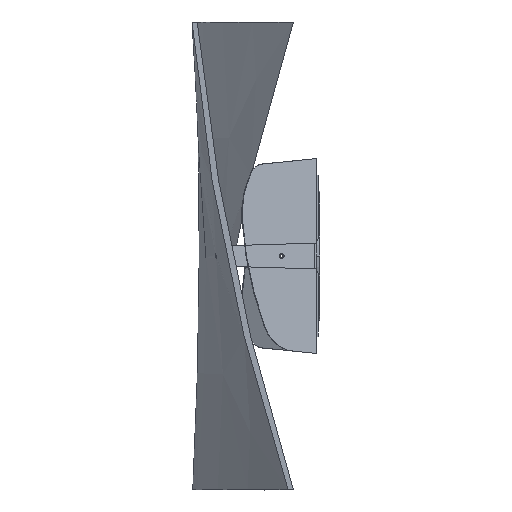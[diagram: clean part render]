
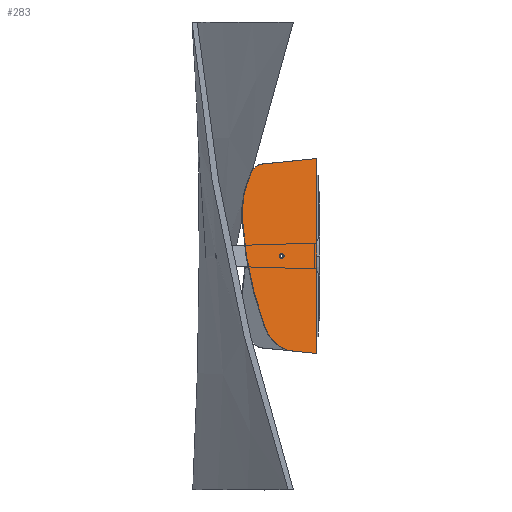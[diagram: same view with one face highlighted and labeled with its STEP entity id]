
A CAD part, left-side view. The second image highlights one B-rep face of the part: STEP entity #283.
In plain terms, the highlighted planar face has unit normal (-0.866, -0.5, 0).
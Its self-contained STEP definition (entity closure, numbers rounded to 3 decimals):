
#143 = CARTESIAN_POINT ( 'NONE',  ( -306.909, 72.095, 108.161 ) ) ;
#249 = FACE_OUTER_BOUND ( 'NONE', #2225, .T. ) ;
#283 = ADVANCED_FACE ( 'NONE', ( #8375, #249 ), #4294, .T. ) ;
#421 = DIRECTION ( 'NONE',  ( 0.498, -0.863, -0.087 ) ) ;
#422 = DIRECTION ( 'NONE',  ( -0.5, 0.866, 0. ) ) ;
#429 = VECTOR ( 'NONE', #421, 1000. ) ;
#527 = EDGE_CURVE ( 'NONE', #10351, #10638, #3635, .T. ) ;
#902 = EDGE_CURVE ( 'NONE', #10638, #10351, #5635, .T. ) ;
#1045 = DIRECTION ( 'NONE',  ( -0.5, 0.866, 0. ) ) ;
#1062 = DIRECTION ( 'NONE',  ( 0.5, -0.866, 0. ) ) ;
#1217 = AXIS2_PLACEMENT_3D ( 'NONE', #10074, #5924, #1062 ) ;
#1272 = DIRECTION ( 'NONE',  ( 0.5, -0.866, 0. ) ) ;
#1303 = CARTESIAN_POINT ( 'NONE',  ( -182.184, -143.935, 89.967 ) ) ;
#1390 = CIRCLE ( 'NONE', #11721, 30.006 ) ;
#1403 = CARTESIAN_POINT ( 'NONE',  ( -293.428, 48.745, 43.452 ) ) ;
#1805 = VERTEX_POINT ( 'NONE', #143 ) ;
#1895 = CARTESIAN_POINT ( 'NONE',  ( -294.303, 50.261, 43.452 ) ) ;
#1958 = VERTEX_POINT ( 'NONE', #6063 ) ;
#1970 = CARTESIAN_POINT ( 'NONE',  ( -311.043, 79.256, 71.492 ) ) ;
#2225 = EDGE_LOOP ( 'NONE', ( #10128, #11889, #11589, #5495, #9035, #6817, #6627 ) ) ;
#2517 = DIRECTION ( 'NONE',  ( -0.866, -0.5, 0. ) ) ;
#2611 = DIRECTION ( 'NONE',  ( -0.866, -0.5, 0. ) ) ;
#2677 = EDGE_LOOP ( 'NONE', ( #9446, #10435 ) ) ;
#2922 = CARTESIAN_POINT ( 'NONE',  ( -277.928, 21.898, -31.548 ) ) ;
#3595 = EDGE_CURVE ( 'NONE', #12759, #1958, #1390, .T. ) ;
#3635 = CIRCLE ( 'NONE', #8059, 1.75 ) ;
#4199 = DIRECTION ( 'NONE',  ( 0., 0., 1. ) ) ;
#4205 = VECTOR ( 'NONE', #11399, 1000. ) ;
#4294 = PLANE ( 'NONE',  #8095 ) ;
#4667 = CARTESIAN_POINT ( 'NONE',  ( -277.928, 21.898, 118.453 ) ) ;
#5131 = DIRECTION ( 'NONE',  ( 0.5, -0.866, 0. ) ) ;
#5341 = DIRECTION ( 'NONE',  ( -0.866, -0.5, 0. ) ) ;
#5438 = LINE ( 'NONE', #12332, #429 ) ;
#5495 = ORIENTED_EDGE ( 'NONE', *, *, #7318, .T. ) ;
#5504 = LINE ( 'NONE', #7421, #4205 ) ;
#5635 = CIRCLE ( 'NONE', #12840, 1.75 ) ;
#5793 = EDGE_CURVE ( 'NONE', #1805, #10306, #9481, .T. ) ;
#5924 = DIRECTION ( 'NONE',  ( -0.866, -0.5, 0. ) ) ;
#5988 = CIRCLE ( 'NONE', #12125, 12. ) ;
#6042 = CARTESIAN_POINT ( 'NONE',  ( -293.428, 48.745, 43.452 ) ) ;
#6055 = DIRECTION ( 'NONE',  ( -0.866, -0.5, 0. ) ) ;
#6063 = CARTESIAN_POINT ( 'NONE',  ( -288.485, 40.184, -29.701 ) ) ;
#6278 = CIRCLE ( 'NONE', #1217, 258.38 ) ;
#6363 = AXIS2_PLACEMENT_3D ( 'NONE', #11220, #6055, #5131 ) ;
#6434 = CARTESIAN_POINT ( 'NONE',  ( -301.688, 63.051, 102.249 ) ) ;
#6501 = EDGE_CURVE ( 'NONE', #11442, #12331, #5504, .T. ) ;
#6627 = ORIENTED_EDGE ( 'NONE', *, *, #5793, .T. ) ;
#6817 = ORIENTED_EDGE ( 'NONE', *, *, #9017, .T. ) ;
#6885 = CARTESIAN_POINT ( 'NONE',  ( -300.973, 61.814, -11.605 ) ) ;
#6954 = DIRECTION ( 'NONE',  ( -0.866, -0.5, 0. ) ) ;
#7318 = EDGE_CURVE ( 'NONE', #12956, #11442, #12975, .T. ) ;
#7421 = CARTESIAN_POINT ( 'NONE',  ( -277.928, 21.898, 118.453 ) ) ;
#7483 = EDGE_CURVE ( 'NONE', #1958, #12956, #5438, .T. ) ;
#8059 = AXIS2_PLACEMENT_3D ( 'NONE', #6042, #6954, #1045 ) ;
#8095 = AXIS2_PLACEMENT_3D ( 'NONE', #1303, #5341, #8318 ) ;
#8318 = DIRECTION ( 'NONE',  ( 0.5, -0.866, 0. ) ) ;
#8375 = FACE_BOUND ( 'NONE', #2677, .T. ) ;
#8686 = CARTESIAN_POINT ( 'NONE',  ( -302.211, 63.957, 114.204 ) ) ;
#8728 = CARTESIAN_POINT ( 'NONE',  ( -287.178, 37.919, 0.191 ) ) ;
#9017 = EDGE_CURVE ( 'NONE', #12331, #1805, #5988, .T. ) ;
#9035 = ORIENTED_EDGE ( 'NONE', *, *, #6501, .T. ) ;
#9446 = ORIENTED_EDGE ( 'NONE', *, *, #902, .F. ) ;
#9481 = CIRCLE ( 'NONE', #6363, 65. ) ;
#9555 = CARTESIAN_POINT ( 'NONE',  ( -292.553, 47.23, 43.452 ) ) ;
#9618 = DIRECTION ( 'NONE',  ( -0.866, -0.5, 0. ) ) ;
#10074 = CARTESIAN_POINT ( 'NONE',  ( -182.184, -143.935, 89.967 ) ) ;
#10128 = ORIENTED_EDGE ( 'NONE', *, *, #10384, .T. ) ;
#10306 = VERTEX_POINT ( 'NONE', #1970 ) ;
#10332 = VECTOR ( 'NONE', #4199, 1000. ) ;
#10351 = VERTEX_POINT ( 'NONE', #1895 ) ;
#10384 = EDGE_CURVE ( 'NONE', #10306, #12759, #6278, .T. ) ;
#10435 = ORIENTED_EDGE ( 'NONE', *, *, #527, .F. ) ;
#10526 = DIRECTION ( 'NONE',  ( 0.5, -0.866, 0. ) ) ;
#10638 = VERTEX_POINT ( 'NONE', #9555 ) ;
#10965 = CARTESIAN_POINT ( 'NONE',  ( -277.928, 21.898, -31.548 ) ) ;
#11220 = CARTESIAN_POINT ( 'NONE',  ( -278.627, 23.108, 76.14 ) ) ;
#11399 = DIRECTION ( 'NONE',  ( -0.498, 0.863, -0.087 ) ) ;
#11442 = VERTEX_POINT ( 'NONE', #4667 ) ;
#11589 = ORIENTED_EDGE ( 'NONE', *, *, #7483, .T. ) ;
#11721 = AXIS2_PLACEMENT_3D ( 'NONE', #8728, #2611, #10526 ) ;
#11889 = ORIENTED_EDGE ( 'NONE', *, *, #3595, .T. ) ;
#12125 = AXIS2_PLACEMENT_3D ( 'NONE', #6434, #2517, #1272 ) ;
#12331 = VERTEX_POINT ( 'NONE', #8686 ) ;
#12332 = CARTESIAN_POINT ( 'NONE',  ( -288.485, 40.184, -29.701 ) ) ;
#12759 = VERTEX_POINT ( 'NONE', #6885 ) ;
#12840 = AXIS2_PLACEMENT_3D ( 'NONE', #1403, #9618, #422 ) ;
#12956 = VERTEX_POINT ( 'NONE', #10965 ) ;
#12975 = LINE ( 'NONE', #2922, #10332 ) ;
